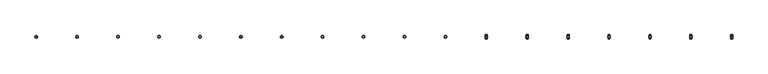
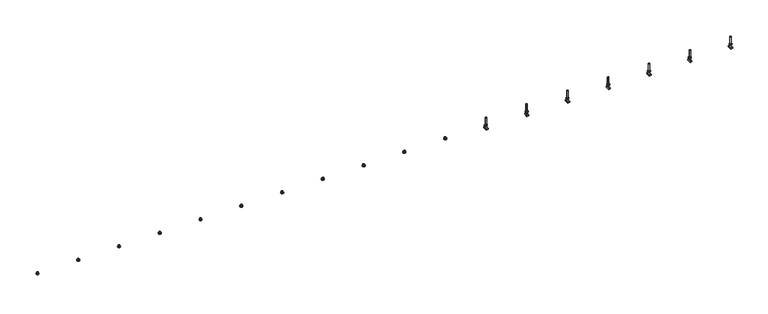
"""IFC4 building model written with IfcOpenShell, lengths in millimetres: fastener geometry, JTA-K JORDAHL® AnchorChannels : JTA-K L=6000 mm."""

from ifc_helpers import new_model, si_unit, point, frame, frame_2d, origin, place, context, project, spatial, polyline, circle_curve, trimmed, segment, composite_curve, outline, extrude, source, transform, mapped, element, save
from ifc_brep_helpers import plane_surface, cylinder_surface, advanced_brep


def fastener_8cfe3b35(model_context):
    return source(origin(), model_context, "Body", "SolidModel", [
        extrude(outline(polyline([(5617.1052632, -9.2376043), (5609.1052632, -4.6188022), (5609.1052632, 4.6188022), (5617.1052632, 9.2376043), (5625.1052632, 4.6188022), (5625.1052632, -4.6188022), (5617.1052632, -9.2376043)]), holes=[composite_curve([segment(trimmed(circle_curve(frame_2d((5617.1052632, 0.0)), 5.0), [point((5612.1052632, 0.0))], [point((5622.1052632, 0.0))], True, "CARTESIAN"), True, "CONTINUOUS"), segment(trimmed(circle_curve(frame_2d((5617.1052632, 0.0)), 5.0), [point((5622.1052632, 0.0))], [point((5612.1052632, 0.0))], True, "CARTESIAN"), True, "CONTINUOUS")], self_intersect=False)]), frame((0.0, 0.0, 17.0), z_axis=(0.0, 0.0, 1.0), x_axis=(1.0, 0.0, 0.0)), (0.0, 0.0, 1.0), 8.4),
        extrude(outline(composite_curve([segment(trimmed(circle_curve(frame_2d((5617.1052632, 0.0)), 10.0), [point((5607.1052632, 0.0))], [point((5627.1052632, 0.0))], False, "CARTESIAN"), True, "CONTINUOUS"), segment(trimmed(circle_curve(frame_2d((5617.1052632, 0.0)), 10.0), [point((5627.1052632, 0.0))], [point((5607.1052632, 0.0))], False, "CARTESIAN"), True, "CONTINUOUS")], self_intersect=False), holes=[composite_curve([segment(trimmed(circle_curve(frame_2d((5617.1052632, 0.0)), 5.25), [point((5611.8552632, 0.0))], [point((5622.3552632, 0.0))], True, "CARTESIAN"), True, "CONTINUOUS"), segment(trimmed(circle_curve(frame_2d((5617.1052632, 0.0)), 5.25), [point((5622.3552632, 0.0))], [point((5611.8552632, 0.0))], True, "CARTESIAN"), True, "CONTINUOUS")], self_intersect=False)]), frame((0.0, 0.0, 15.0), z_axis=(0.0, 0.0, 1.0), x_axis=(1.0, 0.0, 0.0)), (0.0, 0.0, 1.0), 2.0),
        extrude(outline(polyline([(5309.2105263, -9.2376043), (5301.2105263, -4.6188022), (5301.2105263, 4.6188022), (5309.2105263, 9.2376043), (5317.2105263, 4.6188022), (5317.2105263, -4.6188022), (5309.2105263, -9.2376043)]), holes=[composite_curve([segment(trimmed(circle_curve(frame_2d((5309.2105263, 0.0)), 5.0), [point((5304.2105263, 0.0))], [point((5314.2105263, 0.0))], True, "CARTESIAN"), True, "CONTINUOUS"), segment(trimmed(circle_curve(frame_2d((5309.2105263, 0.0)), 5.0), [point((5314.2105263, 0.0))], [point((5304.2105263, 0.0))], True, "CARTESIAN"), True, "CONTINUOUS")], self_intersect=False)]), frame((0.0, 0.0, 17.0), z_axis=(0.0, 0.0, 1.0), x_axis=(1.0, 0.0, 0.0)), (0.0, 0.0, 1.0), 8.4),
        extrude(outline(composite_curve([segment(trimmed(circle_curve(frame_2d((5309.2105263, 0.0)), 10.0), [point((5299.2105263, 0.0))], [point((5319.2105263, 0.0))], False, "CARTESIAN"), True, "CONTINUOUS"), segment(trimmed(circle_curve(frame_2d((5309.2105263, 0.0)), 10.0), [point((5319.2105263, 0.0))], [point((5299.2105263, 0.0))], False, "CARTESIAN"), True, "CONTINUOUS")], self_intersect=False), holes=[composite_curve([segment(trimmed(circle_curve(frame_2d((5309.2105263, 0.0)), 5.25), [point((5303.9605263, 0.0))], [point((5314.4605263, 0.0))], True, "CARTESIAN"), True, "CONTINUOUS"), segment(trimmed(circle_curve(frame_2d((5309.2105263, 0.0)), 5.25), [point((5314.4605263, 0.0))], [point((5303.9605263, 0.0))], True, "CARTESIAN"), True, "CONTINUOUS")], self_intersect=False)]), frame((0.0, 0.0, 15.0), z_axis=(0.0, 0.0, 1.0), x_axis=(1.0, 0.0, 0.0)), (0.0, 0.0, 1.0), 2.0),
        extrude(outline(polyline([(5001.3157895, -9.2376043), (4993.3157895, -4.6188022), (4993.3157895, 4.6188022), (5001.3157895, 9.2376043), (5009.3157895, 4.6188022), (5009.3157895, -4.6188022), (5001.3157895, -9.2376043)]), holes=[composite_curve([segment(trimmed(circle_curve(frame_2d((5001.3157895, 0.0)), 5.0), [point((4996.3157895, 0.0))], [point((5006.3157895, 0.0))], True, "CARTESIAN"), True, "CONTINUOUS"), segment(trimmed(circle_curve(frame_2d((5001.3157895, 0.0)), 5.0), [point((5006.3157895, 0.0))], [point((4996.3157895, 0.0))], True, "CARTESIAN"), True, "CONTINUOUS")], self_intersect=False)]), frame((0.0, 0.0, 17.0), z_axis=(0.0, 0.0, 1.0), x_axis=(1.0, 0.0, 0.0)), (0.0, 0.0, 1.0), 8.4),
        extrude(outline(composite_curve([segment(trimmed(circle_curve(frame_2d((5001.3157895, 0.0)), 10.0), [point((4991.3157895, 0.0))], [point((5011.3157895, 0.0))], False, "CARTESIAN"), True, "CONTINUOUS"), segment(trimmed(circle_curve(frame_2d((5001.3157895, 0.0)), 10.0), [point((5011.3157895, 0.0))], [point((4991.3157895, 0.0))], False, "CARTESIAN"), True, "CONTINUOUS")], self_intersect=False), holes=[composite_curve([segment(trimmed(circle_curve(frame_2d((5001.3157895, 0.0)), 5.25), [point((4996.0657895, 0.0))], [point((5006.5657895, 0.0))], True, "CARTESIAN"), True, "CONTINUOUS"), segment(trimmed(circle_curve(frame_2d((5001.3157895, 0.0)), 5.25), [point((5006.5657895, 0.0))], [point((4996.0657895, 0.0))], True, "CARTESIAN"), True, "CONTINUOUS")], self_intersect=False)]), frame((0.0, 0.0, 15.0), z_axis=(0.0, 0.0, 1.0), x_axis=(1.0, 0.0, 0.0)), (0.0, 0.0, 1.0), 2.0),
        extrude(outline(polyline([(4693.4210526, -9.2376043), (4685.4210526, -4.6188022), (4685.4210526, 4.6188022), (4693.4210526, 9.2376043), (4701.4210526, 4.6188022), (4701.4210526, -4.6188022), (4693.4210526, -9.2376043)]), holes=[composite_curve([segment(trimmed(circle_curve(frame_2d((4693.4210526, 0.0)), 5.0), [point((4688.4210526, 0.0))], [point((4698.4210526, 0.0))], True, "CARTESIAN"), True, "CONTINUOUS"), segment(trimmed(circle_curve(frame_2d((4693.4210526, 0.0)), 5.0), [point((4698.4210526, 0.0))], [point((4688.4210526, 0.0))], True, "CARTESIAN"), True, "CONTINUOUS")], self_intersect=False)]), frame((0.0, 0.0, 17.0), z_axis=(0.0, 0.0, 1.0), x_axis=(1.0, 0.0, 0.0)), (0.0, 0.0, 1.0), 8.4),
        extrude(outline(composite_curve([segment(trimmed(circle_curve(frame_2d((4693.4210526, 0.0)), 10.0), [point((4683.4210526, 0.0))], [point((4703.4210526, 0.0))], False, "CARTESIAN"), True, "CONTINUOUS"), segment(trimmed(circle_curve(frame_2d((4693.4210526, 0.0)), 10.0), [point((4703.4210526, 0.0))], [point((4683.4210526, 0.0))], False, "CARTESIAN"), True, "CONTINUOUS")], self_intersect=False), holes=[composite_curve([segment(trimmed(circle_curve(frame_2d((4693.4210526, 0.0)), 5.25), [point((4688.1710526, 0.0))], [point((4698.6710526, 0.0))], True, "CARTESIAN"), True, "CONTINUOUS"), segment(trimmed(circle_curve(frame_2d((4693.4210526, 0.0)), 5.25), [point((4698.6710526, 0.0))], [point((4688.1710526, 0.0))], True, "CARTESIAN"), True, "CONTINUOUS")], self_intersect=False)]), frame((0.0, 0.0, 15.0), z_axis=(0.0, 0.0, 1.0), x_axis=(1.0, 0.0, 0.0)), (0.0, 0.0, 1.0), 2.0),
        extrude(outline(polyline([(4385.5263158, -9.2376043), (4377.5263158, -4.6188022), (4377.5263158, 4.6188022), (4385.5263158, 9.2376043), (4393.5263158, 4.6188022), (4393.5263158, -4.6188022), (4385.5263158, -9.2376043)]), holes=[composite_curve([segment(trimmed(circle_curve(frame_2d((4385.5263158, 0.0)), 5.0), [point((4380.5263158, 0.0))], [point((4390.5263158, 0.0))], True, "CARTESIAN"), True, "CONTINUOUS"), segment(trimmed(circle_curve(frame_2d((4385.5263158, 0.0)), 5.0), [point((4390.5263158, 0.0))], [point((4380.5263158, 0.0))], True, "CARTESIAN"), True, "CONTINUOUS")], self_intersect=False)]), frame((0.0, 0.0, 17.0), z_axis=(0.0, 0.0, 1.0), x_axis=(1.0, 0.0, 0.0)), (0.0, 0.0, 1.0), 8.4),
        extrude(outline(composite_curve([segment(trimmed(circle_curve(frame_2d((4385.5263158, 0.0)), 10.0), [point((4375.5263158, 0.0))], [point((4395.5263158, 0.0))], False, "CARTESIAN"), True, "CONTINUOUS"), segment(trimmed(circle_curve(frame_2d((4385.5263158, 0.0)), 10.0), [point((4395.5263158, 0.0))], [point((4375.5263158, 0.0))], False, "CARTESIAN"), True, "CONTINUOUS")], self_intersect=False), holes=[composite_curve([segment(trimmed(circle_curve(frame_2d((4385.5263158, 0.0)), 5.25), [point((4380.2763158, 0.0))], [point((4390.7763158, 0.0))], True, "CARTESIAN"), True, "CONTINUOUS"), segment(trimmed(circle_curve(frame_2d((4385.5263158, 0.0)), 5.25), [point((4390.7763158, 0.0))], [point((4380.2763158, 0.0))], True, "CARTESIAN"), True, "CONTINUOUS")], self_intersect=False)]), frame((0.0, 0.0, 15.0), z_axis=(0.0, 0.0, 1.0), x_axis=(1.0, 0.0, 0.0)), (0.0, 0.0, 1.0), 2.0),
        extrude(outline(polyline([(4077.6315789, -9.2376043), (4069.6315789, -4.6188022), (4069.6315789, 4.6188022), (4077.6315789, 9.2376043), (4085.6315789, 4.6188022), (4085.6315789, -4.6188022), (4077.6315789, -9.2376043)]), holes=[composite_curve([segment(trimmed(circle_curve(frame_2d((4077.6315789, 0.0)), 5.0), [point((4072.6315789, 0.0))], [point((4082.6315789, 0.0))], True, "CARTESIAN"), True, "CONTINUOUS"), segment(trimmed(circle_curve(frame_2d((4077.6315789, 0.0)), 5.0), [point((4082.6315789, 0.0))], [point((4072.6315789, 0.0))], True, "CARTESIAN"), True, "CONTINUOUS")], self_intersect=False)]), frame((0.0, 0.0, 17.0), z_axis=(0.0, 0.0, 1.0), x_axis=(1.0, 0.0, 0.0)), (0.0, 0.0, 1.0), 8.4),
        extrude(outline(composite_curve([segment(trimmed(circle_curve(frame_2d((4077.6315789, 0.0)), 10.0), [point((4067.6315789, 0.0))], [point((4087.6315789, 0.0))], False, "CARTESIAN"), True, "CONTINUOUS"), segment(trimmed(circle_curve(frame_2d((4077.6315789, 0.0)), 10.0), [point((4087.6315789, 0.0))], [point((4067.6315789, 0.0))], False, "CARTESIAN"), True, "CONTINUOUS")], self_intersect=False), holes=[composite_curve([segment(trimmed(circle_curve(frame_2d((4077.6315789, 0.0)), 5.25), [point((4072.3815789, 0.0))], [point((4082.8815789, 0.0))], True, "CARTESIAN"), True, "CONTINUOUS"), segment(trimmed(circle_curve(frame_2d((4077.6315789, 0.0)), 5.25), [point((4082.8815789, 0.0))], [point((4072.3815789, 0.0))], True, "CARTESIAN"), True, "CONTINUOUS")], self_intersect=False)]), frame((0.0, 0.0, 15.0), z_axis=(0.0, 0.0, 1.0), x_axis=(1.0, 0.0, 0.0)), (0.0, 0.0, 1.0), 2.0),
        extrude(outline(polyline([(3769.7368421, -9.2376043), (3761.7368421, -4.6188022), (3761.7368421, 4.6188022), (3769.7368421, 9.2376043), (3777.7368421, 4.6188022), (3777.7368421, -4.6188022), (3769.7368421, -9.2376043)]), holes=[composite_curve([segment(trimmed(circle_curve(frame_2d((3769.7368421, 0.0)), 5.0), [point((3764.7368421, 0.0))], [point((3774.7368421, 0.0))], True, "CARTESIAN"), True, "CONTINUOUS"), segment(trimmed(circle_curve(frame_2d((3769.7368421, 0.0)), 5.0), [point((3774.7368421, 0.0))], [point((3764.7368421, 0.0))], True, "CARTESIAN"), True, "CONTINUOUS")], self_intersect=False)]), frame((0.0, 0.0, 17.0), z_axis=(0.0, 0.0, 1.0), x_axis=(1.0, 0.0, 0.0)), (0.0, 0.0, 1.0), 8.4),
        extrude(outline(composite_curve([segment(trimmed(circle_curve(frame_2d((3769.7368421, 0.0)), 10.0), [point((3759.7368421, 0.0))], [point((3779.7368421, 0.0))], False, "CARTESIAN"), True, "CONTINUOUS"), segment(trimmed(circle_curve(frame_2d((3769.7368421, 0.0)), 10.0), [point((3779.7368421, 0.0))], [point((3759.7368421, 0.0))], False, "CARTESIAN"), True, "CONTINUOUS")], self_intersect=False), holes=[composite_curve([segment(trimmed(circle_curve(frame_2d((3769.7368421, 0.0)), 5.25), [point((3764.4868421, 0.0))], [point((3774.9868421, 0.0))], True, "CARTESIAN"), True, "CONTINUOUS"), segment(trimmed(circle_curve(frame_2d((3769.7368421, 0.0)), 5.25), [point((3774.9868421, 0.0))], [point((3764.4868421, 0.0))], True, "CARTESIAN"), True, "CONTINUOUS")], self_intersect=False)]), frame((0.0, 0.0, 15.0), z_axis=(0.0, 0.0, 1.0), x_axis=(1.0, 0.0, 0.0)), (0.0, 0.0, 1.0), 2.0),
        extrude(outline(polyline([(3461.8421053, -9.2376043), (3453.8421053, -4.6188022), (3453.8421053, 4.6188022), (3461.8421053, 9.2376043), (3469.8421053, 4.6188022), (3469.8421053, -4.6188022), (3461.8421053, -9.2376043)]), holes=[composite_curve([segment(trimmed(circle_curve(frame_2d((3461.8421053, 0.0)), 5.0), [point((3456.8421053, 0.0))], [point((3466.8421053, 0.0))], True, "CARTESIAN"), True, "CONTINUOUS"), segment(trimmed(circle_curve(frame_2d((3461.8421053, 0.0)), 5.0), [point((3466.8421053, 0.0))], [point((3456.8421053, 0.0))], True, "CARTESIAN"), True, "CONTINUOUS")], self_intersect=False)]), frame((0.0, 0.0, 17.0), z_axis=(0.0, 0.0, 1.0), x_axis=(1.0, 0.0, 0.0)), (0.0, 0.0, 1.0), 8.4),
        extrude(outline(composite_curve([segment(trimmed(circle_curve(frame_2d((3461.8421053, 0.0)), 10.0), [point((3451.8421053, 0.0))], [point((3471.8421053, 0.0))], False, "CARTESIAN"), True, "CONTINUOUS"), segment(trimmed(circle_curve(frame_2d((3461.8421053, 0.0)), 10.0), [point((3471.8421053, 0.0))], [point((3451.8421053, 0.0))], False, "CARTESIAN"), True, "CONTINUOUS")], self_intersect=False), holes=[composite_curve([segment(trimmed(circle_curve(frame_2d((3461.8421053, 0.0)), 5.25), [point((3456.5921053, 0.0))], [point((3467.0921053, 0.0))], True, "CARTESIAN"), True, "CONTINUOUS"), segment(trimmed(circle_curve(frame_2d((3461.8421053, 0.0)), 5.25), [point((3467.0921053, 0.0))], [point((3456.5921053, 0.0))], True, "CARTESIAN"), True, "CONTINUOUS")], self_intersect=False)]), frame((0.0, 0.0, 15.0), z_axis=(0.0, 0.0, 1.0), x_axis=(1.0, 0.0, 0.0)), (0.0, 0.0, 1.0), 2.0),
        extrude(outline(polyline([(3153.9473684, -9.2376043), (3145.9473684, -4.6188022), (3145.9473684, 4.6188022), (3153.9473684, 9.2376043), (3161.9473684, 4.6188022), (3161.9473684, -4.6188022), (3153.9473684, -9.2376043)]), holes=[composite_curve([segment(trimmed(circle_curve(frame_2d((3153.9473684, 0.0)), 5.0), [point((3148.9473684, 0.0))], [point((3158.9473684, 0.0))], True, "CARTESIAN"), True, "CONTINUOUS"), segment(trimmed(circle_curve(frame_2d((3153.9473684, 0.0)), 5.0), [point((3158.9473684, 0.0))], [point((3148.9473684, 0.0))], True, "CARTESIAN"), True, "CONTINUOUS")], self_intersect=False)]), frame((0.0, 0.0, 17.0), z_axis=(0.0, 0.0, 1.0), x_axis=(1.0, 0.0, 0.0)), (0.0, 0.0, 1.0), 8.4),
        extrude(outline(composite_curve([segment(trimmed(circle_curve(frame_2d((3153.9473684, 0.0)), 10.0), [point((3143.9473684, 0.0))], [point((3163.9473684, 0.0))], False, "CARTESIAN"), True, "CONTINUOUS"), segment(trimmed(circle_curve(frame_2d((3153.9473684, 0.0)), 10.0), [point((3163.9473684, 0.0))], [point((3143.9473684, 0.0))], False, "CARTESIAN"), True, "CONTINUOUS")], self_intersect=False), holes=[composite_curve([segment(trimmed(circle_curve(frame_2d((3153.9473684, 0.0)), 5.25), [point((3148.6973684, 0.0))], [point((3159.1973684, 0.0))], True, "CARTESIAN"), True, "CONTINUOUS"), segment(trimmed(circle_curve(frame_2d((3153.9473684, 0.0)), 5.25), [point((3159.1973684, 0.0))], [point((3148.6973684, 0.0))], True, "CARTESIAN"), True, "CONTINUOUS")], self_intersect=False)]), frame((0.0, 0.0, 15.0), z_axis=(0.0, 0.0, 1.0), x_axis=(1.0, 0.0, 0.0)), (0.0, 0.0, 1.0), 2.0),
        extrude(outline(polyline([(2846.0526316, -9.2376043), (2838.0526316, -4.6188022), (2838.0526316, 4.6188022), (2846.0526316, 9.2376043), (2854.0526316, 4.6188022), (2854.0526316, -4.6188022), (2846.0526316, -9.2376043)]), holes=[composite_curve([segment(trimmed(circle_curve(frame_2d((2846.0526316, 0.0)), 5.0), [point((2841.0526316, 0.0))], [point((2851.0526316, 0.0))], True, "CARTESIAN"), True, "CONTINUOUS"), segment(trimmed(circle_curve(frame_2d((2846.0526316, 0.0)), 5.0), [point((2851.0526316, 0.0))], [point((2841.0526316, 0.0))], True, "CARTESIAN"), True, "CONTINUOUS")], self_intersect=False)]), frame((0.0, 0.0, 17.0), z_axis=(0.0, 0.0, 1.0), x_axis=(1.0, 0.0, 0.0)), (0.0, 0.0, 1.0), 8.4),
        extrude(outline(composite_curve([segment(trimmed(circle_curve(frame_2d((2846.0526316, 0.0)), 10.0), [point((2836.0526316, 0.0))], [point((2856.0526316, 0.0))], False, "CARTESIAN"), True, "CONTINUOUS"), segment(trimmed(circle_curve(frame_2d((2846.0526316, 0.0)), 10.0), [point((2856.0526316, 0.0))], [point((2836.0526316, 0.0))], False, "CARTESIAN"), True, "CONTINUOUS")], self_intersect=False), holes=[composite_curve([segment(trimmed(circle_curve(frame_2d((2846.0526316, 0.0)), 5.25), [point((2840.8026316, 0.0))], [point((2851.3026316, 0.0))], True, "CARTESIAN"), True, "CONTINUOUS"), segment(trimmed(circle_curve(frame_2d((2846.0526316, 0.0)), 5.25), [point((2851.3026316, 0.0))], [point((2840.8026316, 0.0))], True, "CARTESIAN"), True, "CONTINUOUS")], self_intersect=False)]), frame((0.0, 0.0, 15.0), z_axis=(0.0, 0.0, 1.0), x_axis=(1.0, 0.0, 0.0)), (0.0, 0.0, 1.0), 2.0),
        extrude(outline(polyline([(2538.1578947, -9.2376043), (2530.1578947, -4.6188022), (2530.1578947, 4.6188022), (2538.1578947, 9.2376043), (2546.1578947, 4.6188022), (2546.1578947, -4.6188022), (2538.1578947, -9.2376043)]), holes=[composite_curve([segment(trimmed(circle_curve(frame_2d((2538.1578947, 0.0)), 5.0), [point((2533.1578947, 0.0))], [point((2543.1578947, 0.0))], True, "CARTESIAN"), True, "CONTINUOUS"), segment(trimmed(circle_curve(frame_2d((2538.1578947, 0.0)), 5.0), [point((2543.1578947, 0.0))], [point((2533.1578947, 0.0))], True, "CARTESIAN"), True, "CONTINUOUS")], self_intersect=False)]), frame((0.0, 0.0, 17.0), z_axis=(0.0, 0.0, 1.0), x_axis=(1.0, 0.0, 0.0)), (0.0, 0.0, 1.0), 8.4),
        extrude(outline(composite_curve([segment(trimmed(circle_curve(frame_2d((2538.1578947, 0.0)), 10.0), [point((2528.1578947, 0.0))], [point((2548.1578947, 0.0))], False, "CARTESIAN"), True, "CONTINUOUS"), segment(trimmed(circle_curve(frame_2d((2538.1578947, 0.0)), 10.0), [point((2548.1578947, 0.0))], [point((2528.1578947, 0.0))], False, "CARTESIAN"), True, "CONTINUOUS")], self_intersect=False), holes=[composite_curve([segment(trimmed(circle_curve(frame_2d((2538.1578947, 0.0)), 5.25), [point((2532.9078947, 0.0))], [point((2543.4078947, 0.0))], True, "CARTESIAN"), True, "CONTINUOUS"), segment(trimmed(circle_curve(frame_2d((2538.1578947, 0.0)), 5.25), [point((2543.4078947, 0.0))], [point((2532.9078947, 0.0))], True, "CARTESIAN"), True, "CONTINUOUS")], self_intersect=False)]), frame((0.0, 0.0, 15.0), z_axis=(0.0, 0.0, 1.0), x_axis=(1.0, 0.0, 0.0)), (0.0, 0.0, 1.0), 2.0),
        extrude(outline(polyline([(2230.2631579, -9.2376043), (2222.2631579, -4.6188022), (2222.2631579, 4.6188022), (2230.2631579, 9.2376043), (2238.2631579, 4.6188022), (2238.2631579, -4.6188022), (2230.2631579, -9.2376043)]), holes=[composite_curve([segment(trimmed(circle_curve(frame_2d((2230.2631579, 0.0)), 5.0), [point((2225.2631579, 0.0))], [point((2235.2631579, 0.0))], True, "CARTESIAN"), True, "CONTINUOUS"), segment(trimmed(circle_curve(frame_2d((2230.2631579, 0.0)), 5.0), [point((2235.2631579, 0.0))], [point((2225.2631579, 0.0))], True, "CARTESIAN"), True, "CONTINUOUS")], self_intersect=False)]), frame((0.0, 0.0, 17.0), z_axis=(0.0, 0.0, 1.0), x_axis=(1.0, 0.0, 0.0)), (0.0, 0.0, 1.0), 8.4),
        extrude(outline(composite_curve([segment(trimmed(circle_curve(frame_2d((2230.2631579, 0.0)), 10.0), [point((2220.2631579, 0.0))], [point((2240.2631579, 0.0))], False, "CARTESIAN"), True, "CONTINUOUS"), segment(trimmed(circle_curve(frame_2d((2230.2631579, 0.0)), 10.0), [point((2240.2631579, 0.0))], [point((2220.2631579, 0.0))], False, "CARTESIAN"), True, "CONTINUOUS")], self_intersect=False), holes=[composite_curve([segment(trimmed(circle_curve(frame_2d((2230.2631579, 0.0)), 5.25), [point((2225.0131579, 0.0))], [point((2235.5131579, 0.0))], True, "CARTESIAN"), True, "CONTINUOUS"), segment(trimmed(circle_curve(frame_2d((2230.2631579, 0.0)), 5.25), [point((2235.5131579, 0.0))], [point((2225.0131579, 0.0))], True, "CARTESIAN"), True, "CONTINUOUS")], self_intersect=False)]), frame((0.0, 0.0, 15.0), z_axis=(0.0, 0.0, 1.0), x_axis=(1.0, 0.0, 0.0)), (0.0, 0.0, 1.0), 2.0),
        extrude(outline(polyline([(1922.3684211, -9.2376043), (1914.3684211, -4.6188022), (1914.3684211, 4.6188022), (1922.3684211, 9.2376043), (1930.3684211, 4.6188022), (1930.3684211, -4.6188022), (1922.3684211, -9.2376043)]), holes=[composite_curve([segment(trimmed(circle_curve(frame_2d((1922.3684211, 0.0)), 5.0), [point((1917.3684211, 0.0))], [point((1927.3684211, 0.0))], True, "CARTESIAN"), True, "CONTINUOUS"), segment(trimmed(circle_curve(frame_2d((1922.3684211, 0.0)), 5.0), [point((1927.3684211, 0.0))], [point((1917.3684211, 0.0))], True, "CARTESIAN"), True, "CONTINUOUS")], self_intersect=False)]), frame((0.0, 0.0, 17.0), z_axis=(0.0, 0.0, 1.0), x_axis=(1.0, 0.0, 0.0)), (0.0, 0.0, 1.0), 8.4),
        extrude(outline(composite_curve([segment(trimmed(circle_curve(frame_2d((1922.3684211, 0.0)), 10.0), [point((1912.3684211, 0.0))], [point((1932.3684211, 0.0))], False, "CARTESIAN"), True, "CONTINUOUS"), segment(trimmed(circle_curve(frame_2d((1922.3684211, 0.0)), 10.0), [point((1932.3684211, 0.0))], [point((1912.3684211, 0.0))], False, "CARTESIAN"), True, "CONTINUOUS")], self_intersect=False), holes=[composite_curve([segment(trimmed(circle_curve(frame_2d((1922.3684211, 0.0)), 5.25), [point((1917.1184211, 0.0))], [point((1927.6184211, 0.0))], True, "CARTESIAN"), True, "CONTINUOUS"), segment(trimmed(circle_curve(frame_2d((1922.3684211, 0.0)), 5.25), [point((1927.6184211, 0.0))], [point((1917.1184211, 0.0))], True, "CARTESIAN"), True, "CONTINUOUS")], self_intersect=False)]), frame((0.0, 0.0, 15.0), z_axis=(0.0, 0.0, 1.0), x_axis=(1.0, 0.0, 0.0)), (0.0, 0.0, 1.0), 2.0),
        extrude(outline(polyline([(1614.4736842, -9.2376043), (1606.4736842, -4.6188022), (1606.4736842, 4.6188022), (1614.4736842, 9.2376043), (1622.4736842, 4.6188022), (1622.4736842, -4.6188022), (1614.4736842, -9.2376043)]), holes=[composite_curve([segment(trimmed(circle_curve(frame_2d((1614.4736842, 0.0)), 5.0), [point((1609.4736842, 0.0))], [point((1619.4736842, 0.0))], True, "CARTESIAN"), True, "CONTINUOUS"), segment(trimmed(circle_curve(frame_2d((1614.4736842, 0.0)), 5.0), [point((1619.4736842, 0.0))], [point((1609.4736842, 0.0))], True, "CARTESIAN"), True, "CONTINUOUS")], self_intersect=False)]), frame((0.0, 0.0, 17.0), z_axis=(0.0, 0.0, 1.0), x_axis=(1.0, 0.0, 0.0)), (0.0, 0.0, 1.0), 8.4),
        extrude(outline(composite_curve([segment(trimmed(circle_curve(frame_2d((1614.4736842, 0.0)), 10.0), [point((1604.4736842, 0.0))], [point((1624.4736842, 0.0))], False, "CARTESIAN"), True, "CONTINUOUS"), segment(trimmed(circle_curve(frame_2d((1614.4736842, 0.0)), 10.0), [point((1624.4736842, 0.0))], [point((1604.4736842, 0.0))], False, "CARTESIAN"), True, "CONTINUOUS")], self_intersect=False), holes=[composite_curve([segment(trimmed(circle_curve(frame_2d((1614.4736842, 0.0)), 5.25), [point((1609.2236842, 0.0))], [point((1619.7236842, 0.0))], True, "CARTESIAN"), True, "CONTINUOUS"), segment(trimmed(circle_curve(frame_2d((1614.4736842, 0.0)), 5.25), [point((1619.7236842, 0.0))], [point((1609.2236842, 0.0))], True, "CARTESIAN"), True, "CONTINUOUS")], self_intersect=False)]), frame((0.0, 0.0, 15.0), z_axis=(0.0, 0.0, 1.0), x_axis=(1.0, 0.0, 0.0)), (0.0, 0.0, 1.0), 2.0),
        extrude(outline(polyline([(1306.5789474, -9.2376043), (1298.5789474, -4.6188022), (1298.5789474, 4.6188022), (1306.5789474, 9.2376043), (1314.5789474, 4.6188022), (1314.5789474, -4.6188022), (1306.5789474, -9.2376043)]), holes=[composite_curve([segment(trimmed(circle_curve(frame_2d((1306.5789474, 0.0)), 5.0), [point((1301.5789474, 0.0))], [point((1311.5789474, 0.0))], True, "CARTESIAN"), True, "CONTINUOUS"), segment(trimmed(circle_curve(frame_2d((1306.5789474, 0.0)), 5.0), [point((1311.5789474, 0.0))], [point((1301.5789474, 0.0))], True, "CARTESIAN"), True, "CONTINUOUS")], self_intersect=False)]), frame((0.0, 0.0, 17.0), z_axis=(0.0, 0.0, 1.0), x_axis=(1.0, 0.0, 0.0)), (0.0, 0.0, 1.0), 8.4),
        extrude(outline(composite_curve([segment(trimmed(circle_curve(frame_2d((1306.5789474, 0.0)), 10.0), [point((1296.5789474, 0.0))], [point((1316.5789474, 0.0))], False, "CARTESIAN"), True, "CONTINUOUS"), segment(trimmed(circle_curve(frame_2d((1306.5789474, 0.0)), 10.0), [point((1316.5789474, 0.0))], [point((1296.5789474, 0.0))], False, "CARTESIAN"), True, "CONTINUOUS")], self_intersect=False), holes=[composite_curve([segment(trimmed(circle_curve(frame_2d((1306.5789474, 0.0)), 5.25), [point((1301.3289474, 0.0))], [point((1311.8289474, 0.0))], True, "CARTESIAN"), True, "CONTINUOUS"), segment(trimmed(circle_curve(frame_2d((1306.5789474, 0.0)), 5.25), [point((1311.8289474, 0.0))], [point((1301.3289474, 0.0))], True, "CARTESIAN"), True, "CONTINUOUS")], self_intersect=False)]), frame((0.0, 0.0, 15.0), z_axis=(0.0, 0.0, 1.0), x_axis=(1.0, 0.0, 0.0)), (0.0, 0.0, 1.0), 2.0),
        extrude(outline(polyline([(998.6842105, -9.2376043), (990.6842105, -4.6188022), (990.6842105, 4.6188022), (998.6842105, 9.2376043), (1006.6842105, 4.6188022), (1006.6842105, -4.6188022), (998.6842105, -9.2376043)]), holes=[composite_curve([segment(trimmed(circle_curve(frame_2d((998.6842105, 0.0)), 5.0), [point((993.6842105, 0.0))], [point((1003.6842105, 0.0))], True, "CARTESIAN"), True, "CONTINUOUS"), segment(trimmed(circle_curve(frame_2d((998.6842105, 0.0)), 5.0), [point((1003.6842105, 0.0))], [point((993.6842105, 0.0))], True, "CARTESIAN"), True, "CONTINUOUS")], self_intersect=False)]), frame((0.0, 0.0, 17.0), z_axis=(0.0, 0.0, 1.0), x_axis=(1.0, 0.0, 0.0)), (0.0, 0.0, 1.0), 8.4),
        extrude(outline(composite_curve([segment(trimmed(circle_curve(frame_2d((998.6842105, 0.0)), 10.0), [point((988.6842105, 0.0))], [point((1008.6842105, 0.0))], False, "CARTESIAN"), True, "CONTINUOUS"), segment(trimmed(circle_curve(frame_2d((998.6842105, 0.0)), 10.0), [point((1008.6842105, 0.0))], [point((988.6842105, 0.0))], False, "CARTESIAN"), True, "CONTINUOUS")], self_intersect=False), holes=[composite_curve([segment(trimmed(circle_curve(frame_2d((998.6842105, 0.0)), 5.25), [point((993.4342105, 0.0))], [point((1003.9342105, 0.0))], True, "CARTESIAN"), True, "CONTINUOUS"), segment(trimmed(circle_curve(frame_2d((998.6842105, 0.0)), 5.25), [point((1003.9342105, 0.0))], [point((993.4342105, 0.0))], True, "CARTESIAN"), True, "CONTINUOUS")], self_intersect=False)]), frame((0.0, 0.0, 15.0), z_axis=(0.0, 0.0, 1.0), x_axis=(1.0, 0.0, 0.0)), (0.0, 0.0, 1.0), 2.0),
        extrude(outline(polyline([(690.7894737, -9.2376043), (682.7894737, -4.6188022), (682.7894737, 4.6188022), (690.7894737, 9.2376043), (698.7894737, 4.6188022), (698.7894737, -4.6188022), (690.7894737, -9.2376043)]), holes=[composite_curve([segment(trimmed(circle_curve(frame_2d((690.7894737, 0.0)), 5.0), [point((685.7894737, 0.0))], [point((695.7894737, 0.0))], True, "CARTESIAN"), True, "CONTINUOUS"), segment(trimmed(circle_curve(frame_2d((690.7894737, 0.0)), 5.0), [point((695.7894737, 0.0))], [point((685.7894737, 0.0))], True, "CARTESIAN"), True, "CONTINUOUS")], self_intersect=False)]), frame((0.0, 0.0, 17.0), z_axis=(0.0, 0.0, 1.0), x_axis=(1.0, 0.0, 0.0)), (0.0, 0.0, 1.0), 8.4),
        extrude(outline(composite_curve([segment(trimmed(circle_curve(frame_2d((690.7894737, 0.0)), 10.0), [point((680.7894737, 0.0))], [point((700.7894737, 0.0))], False, "CARTESIAN"), True, "CONTINUOUS"), segment(trimmed(circle_curve(frame_2d((690.7894737, 0.0)), 10.0), [point((700.7894737, 0.0))], [point((680.7894737, 0.0))], False, "CARTESIAN"), True, "CONTINUOUS")], self_intersect=False), holes=[composite_curve([segment(trimmed(circle_curve(frame_2d((690.7894737, 0.0)), 5.25), [point((685.5394737, 0.0))], [point((696.0394737, 0.0))], True, "CARTESIAN"), True, "CONTINUOUS"), segment(trimmed(circle_curve(frame_2d((690.7894737, 0.0)), 5.25), [point((696.0394737, 0.0))], [point((685.5394737, 0.0))], True, "CARTESIAN"), True, "CONTINUOUS")], self_intersect=False)]), frame((0.0, 0.0, 15.0), z_axis=(0.0, 0.0, 1.0), x_axis=(1.0, 0.0, 0.0)), (0.0, 0.0, 1.0), 2.0),
        extrude(outline(polyline([(382.8947368, -9.2376043), (374.8947368, -4.6188022), (374.8947368, 4.6188022), (382.8947368, 9.2376043), (390.8947368, 4.6188022), (390.8947368, -4.6188022), (382.8947368, -9.2376043)]), holes=[composite_curve([segment(trimmed(circle_curve(frame_2d((382.8947368, 0.0)), 5.0), [point((377.8947368, 0.0))], [point((387.8947368, 0.0))], True, "CARTESIAN"), True, "CONTINUOUS"), segment(trimmed(circle_curve(frame_2d((382.8947368, 0.0)), 5.0), [point((387.8947368, 0.0))], [point((377.8947368, 0.0))], True, "CARTESIAN"), True, "CONTINUOUS")], self_intersect=False)]), frame((0.0, 0.0, 17.0), z_axis=(0.0, 0.0, 1.0), x_axis=(1.0, 0.0, 0.0)), (0.0, 0.0, 1.0), 8.4),
        extrude(outline(composite_curve([segment(trimmed(circle_curve(frame_2d((382.8947368, 0.0)), 10.0), [point((372.8947368, 0.0))], [point((392.8947368, 0.0))], False, "CARTESIAN"), True, "CONTINUOUS"), segment(trimmed(circle_curve(frame_2d((382.8947368, 0.0)), 10.0), [point((392.8947368, 0.0))], [point((372.8947368, 0.0))], False, "CARTESIAN"), True, "CONTINUOUS")], self_intersect=False), holes=[composite_curve([segment(trimmed(circle_curve(frame_2d((382.8947368, 0.0)), 5.25), [point((377.6447368, 0.0))], [point((388.1447368, 0.0))], True, "CARTESIAN"), True, "CONTINUOUS"), segment(trimmed(circle_curve(frame_2d((382.8947368, 0.0)), 5.25), [point((388.1447368, 0.0))], [point((377.6447368, 0.0))], True, "CARTESIAN"), True, "CONTINUOUS")], self_intersect=False)]), frame((0.0, 0.0, 15.0), z_axis=(0.0, 0.0, 1.0), x_axis=(1.0, 0.0, 0.0)), (0.0, 0.0, 1.0), 2.0),
        advanced_brep(
        [(5624.1052632, -16.0, -3.0), (5624.1052632, -16.0, -11.0), (5624.1052632, 16.0, -11.0), (5624.1052632, 16.0, -3.0), (5610.1052632, -16.0, -3.0), (5610.1052632, 16.0, -3.0), (5610.1052632, 16.0, -11.0), (5610.1052632, -16.0, -11.0), (5622.1052632, 0.0, -3.0), (5612.1052632, 0.0, -3.0), (5612.1052632, 0.0, 77.0), (5622.1052632, 0.0, 77.0)],
        [
            (0, 1),
            (1, 2),
            (2, 3),
            (3, 0),
            (4, 5),
            (5, 6),
            (6, 7),
            (7, 4),
            (3, 5),
            (4, 0),
            (8, 9, circle_curve(frame((5617.1052632, 0.0, -3.0), z_axis=(0.0, 0.0, -1.0), x_axis=(1.0, 0.0, 0.0)), 5.0)),
            (9, 8, circle_curve(frame((5617.1052632, 0.0, -3.0), z_axis=(0.0, 0.0, -1.0), x_axis=(1.0, 0.0, 0.0)), 5.0)),
            (2, 6),
            (1, 7),
            (10, 11, circle_curve(frame((5617.1052632, 0.0, 77.0), z_axis=(0.0, 0.0, 1.0), x_axis=(1.0, 0.0, 0.0)), 5.0)),
            (11, 10, circle_curve(frame((5617.1052632, 0.0, 77.0), z_axis=(0.0, 0.0, 1.0), x_axis=(1.0, 0.0, 0.0)), 5.0)),
            (11, 8),
            (9, 10),
        ],
        [
            plane_surface(frame((5624.1052632, 16.0, -3.0), z_axis=(1.0, 0.0, 0.0), x_axis=(0.0, 1.0, 0.0))),
            plane_surface(frame((5610.1052632, 16.0, -3.0), z_axis=(-1.0, 0.0, 0.0), x_axis=(0.0, -1.0, 0.0))),
            plane_surface(frame((5624.1052632, -16.0, -3.0), z_axis=(0.0, 0.0, 1.0), x_axis=(-1.0, 0.0, 0.0))),
            plane_surface(frame((5624.1052632, 16.0, -3.0), z_axis=(0.0, 1.0, 0.0), x_axis=(-1.0, 0.0, 0.0))),
            plane_surface(frame((5624.1052632, 16.0, -11.0), z_axis=(0.0, 0.0, -1.0), x_axis=(-1.0, 0.0, 0.0))),
            plane_surface(frame((5624.1052632, -16.0, -11.0), z_axis=(0.0, -1.0, 0.0), x_axis=(-1.0, 0.0, 0.0))),
            plane_surface(frame((5622.1052632, 0.0, 77.0), z_axis=(0.0, 0.0, 1.0), x_axis=(0.0, -1.0, 0.0))),
            cylinder_surface(frame((5617.1052632, 0.0, -3.0), z_axis=(0.0, 0.0, 1.0), x_axis=(1.0, 0.0, 0.0)), 5.0),
        ],
        [
            (0, [[1, 2, 3, 4]]),
            (1, [[5, 6, 7, 8]]),
            (2, [[9, -5, 10, -4], [11, 12]]),
            (3, [[13, -6, -9, -3]]),
            (4, [[14, -7, -13, -2]]),
            (5, [[-10, -8, -14, -1]]),
            (6, [[15, 16]]),
            (7, [[17, -12, 18, -16]]),
            (7, [[-18, -11, -17, -15]]),
        ],
    ),
        advanced_brep(
        [(5316.2105263, -16.0, -3.0), (5316.2105263, -16.0, -11.0), (5316.2105263, 16.0, -11.0), (5316.2105263, 16.0, -3.0), (5302.2105263, -16.0, -3.0), (5302.2105263, 16.0, -3.0), (5302.2105263, 16.0, -11.0), (5302.2105263, -16.0, -11.0), (5314.2105263, 0.0, -3.0), (5304.2105263, 0.0, -3.0), (5304.2105263, 0.0, 77.0), (5314.2105263, 0.0, 77.0)],
        [
            (0, 1),
            (1, 2),
            (2, 3),
            (3, 0),
            (4, 5),
            (5, 6),
            (6, 7),
            (7, 4),
            (3, 5),
            (4, 0),
            (8, 9, circle_curve(frame((5309.2105263, 0.0, -3.0), z_axis=(0.0, 0.0, -1.0), x_axis=(1.0, 0.0, 0.0)), 5.0)),
            (9, 8, circle_curve(frame((5309.2105263, 0.0, -3.0), z_axis=(0.0, 0.0, -1.0), x_axis=(1.0, 0.0, 0.0)), 5.0)),
            (2, 6),
            (1, 7),
            (10, 11, circle_curve(frame((5309.2105263, 0.0, 77.0), z_axis=(0.0, 0.0, 1.0), x_axis=(1.0, 0.0, 0.0)), 5.0)),
            (11, 10, circle_curve(frame((5309.2105263, 0.0, 77.0), z_axis=(0.0, 0.0, 1.0), x_axis=(1.0, 0.0, 0.0)), 5.0)),
            (11, 8),
            (9, 10),
        ],
        [
            plane_surface(frame((5316.2105263, 16.0, -3.0), z_axis=(1.0, 0.0, 0.0), x_axis=(0.0, 1.0, 0.0))),
            plane_surface(frame((5302.2105263, 16.0, -3.0), z_axis=(-1.0, 0.0, 0.0), x_axis=(0.0, -1.0, 0.0))),
            plane_surface(frame((5316.2105263, -16.0, -3.0), z_axis=(0.0, 0.0, 1.0), x_axis=(-1.0, 0.0, 0.0))),
            plane_surface(frame((5316.2105263, 16.0, -3.0), z_axis=(0.0, 1.0, 0.0), x_axis=(-1.0, 0.0, 0.0))),
            plane_surface(frame((5316.2105263, 16.0, -11.0), z_axis=(0.0, 0.0, -1.0), x_axis=(-1.0, 0.0, 0.0))),
            plane_surface(frame((5316.2105263, -16.0, -11.0), z_axis=(0.0, -1.0, 0.0), x_axis=(-1.0, 0.0, 0.0))),
            plane_surface(frame((5314.2105263, 0.0, 77.0), z_axis=(0.0, 0.0, 1.0), x_axis=(0.0, -1.0, 0.0))),
            cylinder_surface(frame((5309.2105263, 0.0, -3.0), z_axis=(0.0, 0.0, 1.0), x_axis=(1.0, 0.0, 0.0)), 5.0),
        ],
        [
            (0, [[1, 2, 3, 4]]),
            (1, [[5, 6, 7, 8]]),
            (2, [[9, -5, 10, -4], [11, 12]]),
            (3, [[13, -6, -9, -3]]),
            (4, [[14, -7, -13, -2]]),
            (5, [[-10, -8, -14, -1]]),
            (6, [[15, 16]]),
            (7, [[17, -12, 18, -16]]),
            (7, [[-18, -11, -17, -15]]),
        ],
    ),
        advanced_brep(
        [(5008.3157895, -16.0, -3.0), (5008.3157895, -16.0, -11.0), (5008.3157895, 16.0, -11.0), (5008.3157895, 16.0, -3.0), (4994.3157895, -16.0, -3.0), (4994.3157895, 16.0, -3.0), (4994.3157895, 16.0, -11.0), (4994.3157895, -16.0, -11.0), (5006.3157895, 0.0, -3.0), (4996.3157895, 0.0, -3.0), (4996.3157895, 0.0, 77.0), (5006.3157895, 0.0, 77.0)],
        [
            (0, 1),
            (1, 2),
            (2, 3),
            (3, 0),
            (4, 5),
            (5, 6),
            (6, 7),
            (7, 4),
            (3, 5),
            (4, 0),
            (8, 9, circle_curve(frame((5001.3157895, 0.0, -3.0), z_axis=(0.0, 0.0, -1.0), x_axis=(1.0, 0.0, 0.0)), 5.0)),
            (9, 8, circle_curve(frame((5001.3157895, 0.0, -3.0), z_axis=(0.0, 0.0, -1.0), x_axis=(1.0, 0.0, 0.0)), 5.0)),
            (2, 6),
            (1, 7),
            (10, 11, circle_curve(frame((5001.3157895, 0.0, 77.0), z_axis=(0.0, 0.0, 1.0), x_axis=(1.0, 0.0, 0.0)), 5.0)),
            (11, 10, circle_curve(frame((5001.3157895, 0.0, 77.0), z_axis=(0.0, 0.0, 1.0), x_axis=(1.0, 0.0, 0.0)), 5.0)),
            (11, 8),
            (9, 10),
        ],
        [
            plane_surface(frame((5008.3157895, 16.0, -3.0), z_axis=(1.0, 0.0, 0.0), x_axis=(0.0, 1.0, 0.0))),
            plane_surface(frame((4994.3157895, 16.0, -3.0), z_axis=(-1.0, 0.0, 0.0), x_axis=(0.0, -1.0, 0.0))),
            plane_surface(frame((5008.3157895, -16.0, -3.0), z_axis=(0.0, 0.0, 1.0), x_axis=(-1.0, 0.0, 0.0))),
            plane_surface(frame((5008.3157895, 16.0, -3.0), z_axis=(0.0, 1.0, 0.0), x_axis=(-1.0, 0.0, 0.0))),
            plane_surface(frame((5008.3157895, 16.0, -11.0), z_axis=(0.0, 0.0, -1.0), x_axis=(-1.0, 0.0, 0.0))),
            plane_surface(frame((5008.3157895, -16.0, -11.0), z_axis=(0.0, -1.0, 0.0), x_axis=(-1.0, 0.0, 0.0))),
            plane_surface(frame((5006.3157895, 0.0, 77.0), z_axis=(0.0, 0.0, 1.0), x_axis=(0.0, -1.0, 0.0))),
            cylinder_surface(frame((5001.3157895, 0.0, -3.0), z_axis=(0.0, 0.0, 1.0), x_axis=(1.0, 0.0, 0.0)), 5.0),
        ],
        [
            (0, [[1, 2, 3, 4]]),
            (1, [[5, 6, 7, 8]]),
            (2, [[9, -5, 10, -4], [11, 12]]),
            (3, [[13, -6, -9, -3]]),
            (4, [[14, -7, -13, -2]]),
            (5, [[-10, -8, -14, -1]]),
            (6, [[15, 16]]),
            (7, [[17, -12, 18, -16]]),
            (7, [[-18, -11, -17, -15]]),
        ],
    ),
        advanced_brep(
        [(4700.4210526, -16.0, -3.0), (4700.4210526, -16.0, -11.0), (4700.4210526, 16.0, -11.0), (4700.4210526, 16.0, -3.0), (4686.4210526, -16.0, -3.0), (4686.4210526, 16.0, -3.0), (4686.4210526, 16.0, -11.0), (4686.4210526, -16.0, -11.0), (4698.4210526, 0.0, -3.0), (4688.4210526, 0.0, -3.0), (4688.4210526, 0.0, 77.0), (4698.4210526, 0.0, 77.0)],
        [
            (0, 1),
            (1, 2),
            (2, 3),
            (3, 0),
            (4, 5),
            (5, 6),
            (6, 7),
            (7, 4),
            (3, 5),
            (4, 0),
            (8, 9, circle_curve(frame((4693.4210526, 0.0, -3.0), z_axis=(0.0, 0.0, -1.0), x_axis=(1.0, 0.0, 0.0)), 5.0)),
            (9, 8, circle_curve(frame((4693.4210526, 0.0, -3.0), z_axis=(0.0, 0.0, -1.0), x_axis=(1.0, 0.0, 0.0)), 5.0)),
            (2, 6),
            (1, 7),
            (10, 11, circle_curve(frame((4693.4210526, 0.0, 77.0), z_axis=(0.0, 0.0, 1.0), x_axis=(1.0, 0.0, 0.0)), 5.0)),
            (11, 10, circle_curve(frame((4693.4210526, 0.0, 77.0), z_axis=(0.0, 0.0, 1.0), x_axis=(1.0, 0.0, 0.0)), 5.0)),
            (11, 8),
            (9, 10),
        ],
        [
            plane_surface(frame((4700.4210526, 16.0, -3.0), z_axis=(1.0, 0.0, 0.0), x_axis=(0.0, 1.0, 0.0))),
            plane_surface(frame((4686.4210526, 16.0, -3.0), z_axis=(-1.0, 0.0, 0.0), x_axis=(0.0, -1.0, 0.0))),
            plane_surface(frame((4700.4210526, -16.0, -3.0), z_axis=(0.0, 0.0, 1.0), x_axis=(-1.0, 0.0, 0.0))),
            plane_surface(frame((4700.4210526, 16.0, -3.0), z_axis=(0.0, 1.0, 0.0), x_axis=(-1.0, 0.0, 0.0))),
            plane_surface(frame((4700.4210526, 16.0, -11.0), z_axis=(0.0, 0.0, -1.0), x_axis=(-1.0, 0.0, 0.0))),
            plane_surface(frame((4700.4210526, -16.0, -11.0), z_axis=(0.0, -1.0, 0.0), x_axis=(-1.0, 0.0, 0.0))),
            plane_surface(frame((4698.4210526, 0.0, 77.0), z_axis=(0.0, 0.0, 1.0), x_axis=(0.0, -1.0, 0.0))),
            cylinder_surface(frame((4693.4210526, 0.0, -3.0), z_axis=(0.0, 0.0, 1.0), x_axis=(1.0, 0.0, 0.0)), 5.0),
        ],
        [
            (0, [[1, 2, 3, 4]]),
            (1, [[5, 6, 7, 8]]),
            (2, [[9, -5, 10, -4], [11, 12]]),
            (3, [[13, -6, -9, -3]]),
            (4, [[14, -7, -13, -2]]),
            (5, [[-10, -8, -14, -1]]),
            (6, [[15, 16]]),
            (7, [[17, -12, 18, -16]]),
            (7, [[-18, -11, -17, -15]]),
        ],
    ),
        advanced_brep(
        [(4392.5263158, -16.0, -3.0), (4392.5263158, -16.0, -11.0), (4392.5263158, 16.0, -11.0), (4392.5263158, 16.0, -3.0), (4378.5263158, -16.0, -3.0), (4378.5263158, 16.0, -3.0), (4378.5263158, 16.0, -11.0), (4378.5263158, -16.0, -11.0), (4390.5263158, 0.0, -3.0), (4380.5263158, 0.0, -3.0), (4380.5263158, 0.0, 77.0), (4390.5263158, 0.0, 77.0)],
        [
            (0, 1),
            (1, 2),
            (2, 3),
            (3, 0),
            (4, 5),
            (5, 6),
            (6, 7),
            (7, 4),
            (3, 5),
            (4, 0),
            (8, 9, circle_curve(frame((4385.5263158, 0.0, -3.0), z_axis=(0.0, 0.0, -1.0), x_axis=(1.0, 0.0, 0.0)), 5.0)),
            (9, 8, circle_curve(frame((4385.5263158, 0.0, -3.0), z_axis=(0.0, 0.0, -1.0), x_axis=(1.0, 0.0, 0.0)), 5.0)),
            (2, 6),
            (1, 7),
            (10, 11, circle_curve(frame((4385.5263158, 0.0, 77.0), z_axis=(0.0, 0.0, 1.0), x_axis=(1.0, 0.0, 0.0)), 5.0)),
            (11, 10, circle_curve(frame((4385.5263158, 0.0, 77.0), z_axis=(0.0, 0.0, 1.0), x_axis=(1.0, 0.0, 0.0)), 5.0)),
            (11, 8),
            (9, 10),
        ],
        [
            plane_surface(frame((4392.5263158, 16.0, -3.0), z_axis=(1.0, 0.0, 0.0), x_axis=(0.0, 1.0, 0.0))),
            plane_surface(frame((4378.5263158, 16.0, -3.0), z_axis=(-1.0, 0.0, 0.0), x_axis=(0.0, -1.0, 0.0))),
            plane_surface(frame((4392.5263158, -16.0, -3.0), z_axis=(0.0, 0.0, 1.0), x_axis=(-1.0, 0.0, 0.0))),
            plane_surface(frame((4392.5263158, 16.0, -3.0), z_axis=(0.0, 1.0, 0.0), x_axis=(-1.0, 0.0, 0.0))),
            plane_surface(frame((4392.5263158, 16.0, -11.0), z_axis=(0.0, 0.0, -1.0), x_axis=(-1.0, 0.0, 0.0))),
            plane_surface(frame((4392.5263158, -16.0, -11.0), z_axis=(0.0, -1.0, 0.0), x_axis=(-1.0, 0.0, 0.0))),
            plane_surface(frame((4390.5263158, 0.0, 77.0), z_axis=(0.0, 0.0, 1.0), x_axis=(0.0, -1.0, 0.0))),
            cylinder_surface(frame((4385.5263158, 0.0, -3.0), z_axis=(0.0, 0.0, 1.0), x_axis=(1.0, 0.0, 0.0)), 5.0),
        ],
        [
            (0, [[1, 2, 3, 4]]),
            (1, [[5, 6, 7, 8]]),
            (2, [[9, -5, 10, -4], [11, 12]]),
            (3, [[13, -6, -9, -3]]),
            (4, [[14, -7, -13, -2]]),
            (5, [[-10, -8, -14, -1]]),
            (6, [[15, 16]]),
            (7, [[17, -12, 18, -16]]),
            (7, [[-18, -11, -17, -15]]),
        ],
    ),
        advanced_brep(
        [(4084.6315789, -16.0, -3.0), (4084.6315789, -16.0, -11.0), (4084.6315789, 16.0, -11.0), (4084.6315789, 16.0, -3.0), (4070.6315789, -16.0, -3.0), (4070.6315789, 16.0, -3.0), (4070.6315789, 16.0, -11.0), (4070.6315789, -16.0, -11.0), (4082.6315789, 0.0, -3.0), (4072.6315789, 0.0, -3.0), (4072.6315789, 0.0, 77.0), (4082.6315789, 0.0, 77.0)],
        [
            (0, 1),
            (1, 2),
            (2, 3),
            (3, 0),
            (4, 5),
            (5, 6),
            (6, 7),
            (7, 4),
            (3, 5),
            (4, 0),
            (8, 9, circle_curve(frame((4077.6315789, 0.0, -3.0), z_axis=(0.0, 0.0, -1.0), x_axis=(1.0, 0.0, 0.0)), 5.0)),
            (9, 8, circle_curve(frame((4077.6315789, 0.0, -3.0), z_axis=(0.0, 0.0, -1.0), x_axis=(1.0, 0.0, 0.0)), 5.0)),
            (2, 6),
            (1, 7),
            (10, 11, circle_curve(frame((4077.6315789, 0.0, 77.0), z_axis=(0.0, 0.0, 1.0), x_axis=(1.0, 0.0, 0.0)), 5.0)),
            (11, 10, circle_curve(frame((4077.6315789, 0.0, 77.0), z_axis=(0.0, 0.0, 1.0), x_axis=(1.0, 0.0, 0.0)), 5.0)),
            (11, 8),
            (9, 10),
        ],
        [
            plane_surface(frame((4084.6315789, 16.0, -3.0), z_axis=(1.0, 0.0, 0.0), x_axis=(0.0, 1.0, 0.0))),
            plane_surface(frame((4070.6315789, 16.0, -3.0), z_axis=(-1.0, 0.0, 0.0), x_axis=(0.0, -1.0, 0.0))),
            plane_surface(frame((4084.6315789, -16.0, -3.0), z_axis=(0.0, 0.0, 1.0), x_axis=(-1.0, 0.0, 0.0))),
            plane_surface(frame((4084.6315789, 16.0, -3.0), z_axis=(0.0, 1.0, 0.0), x_axis=(-1.0, 0.0, 0.0))),
            plane_surface(frame((4084.6315789, 16.0, -11.0), z_axis=(0.0, 0.0, -1.0), x_axis=(-1.0, 0.0, 0.0))),
            plane_surface(frame((4084.6315789, -16.0, -11.0), z_axis=(0.0, -1.0, 0.0), x_axis=(-1.0, 0.0, 0.0))),
            plane_surface(frame((4082.6315789, 0.0, 77.0), z_axis=(0.0, 0.0, 1.0), x_axis=(0.0, -1.0, 0.0))),
            cylinder_surface(frame((4077.6315789, 0.0, -3.0), z_axis=(0.0, 0.0, 1.0), x_axis=(1.0, 0.0, 0.0)), 5.0),
        ],
        [
            (0, [[1, 2, 3, 4]]),
            (1, [[5, 6, 7, 8]]),
            (2, [[9, -5, 10, -4], [11, 12]]),
            (3, [[13, -6, -9, -3]]),
            (4, [[14, -7, -13, -2]]),
            (5, [[-10, -8, -14, -1]]),
            (6, [[15, 16]]),
            (7, [[17, -12, 18, -16]]),
            (7, [[-18, -11, -17, -15]]),
        ],
    ),
        advanced_brep(
        [(3776.7368421, -16.0, -3.0), (3776.7368421, -16.0, -11.0), (3776.7368421, 16.0, -11.0), (3776.7368421, 16.0, -3.0), (3762.7368421, -16.0, -3.0), (3762.7368421, 16.0, -3.0), (3762.7368421, 16.0, -11.0), (3762.7368421, -16.0, -11.0), (3774.7368421, 0.0, -3.0), (3764.7368421, 0.0, -3.0), (3764.7368421, 0.0, 77.0), (3774.7368421, 0.0, 77.0)],
        [
            (0, 1),
            (1, 2),
            (2, 3),
            (3, 0),
            (4, 5),
            (5, 6),
            (6, 7),
            (7, 4),
            (3, 5),
            (4, 0),
            (8, 9, circle_curve(frame((3769.7368421, 0.0, -3.0), z_axis=(0.0, 0.0, -1.0), x_axis=(1.0, 0.0, 0.0)), 5.0)),
            (9, 8, circle_curve(frame((3769.7368421, 0.0, -3.0), z_axis=(0.0, 0.0, -1.0), x_axis=(1.0, 0.0, 0.0)), 5.0)),
            (2, 6),
            (1, 7),
            (10, 11, circle_curve(frame((3769.7368421, 0.0, 77.0), z_axis=(0.0, 0.0, 1.0), x_axis=(1.0, 0.0, 0.0)), 5.0)),
            (11, 10, circle_curve(frame((3769.7368421, 0.0, 77.0), z_axis=(0.0, 0.0, 1.0), x_axis=(1.0, 0.0, 0.0)), 5.0)),
            (11, 8),
            (9, 10),
        ],
        [
            plane_surface(frame((3776.7368421, 16.0, -3.0), z_axis=(1.0, 0.0, 0.0), x_axis=(0.0, 1.0, 0.0))),
            plane_surface(frame((3762.7368421, 16.0, -3.0), z_axis=(-1.0, 0.0, 0.0), x_axis=(0.0, -1.0, 0.0))),
            plane_surface(frame((3776.7368421, -16.0, -3.0), z_axis=(0.0, 0.0, 1.0), x_axis=(-1.0, 0.0, 0.0))),
            plane_surface(frame((3776.7368421, 16.0, -3.0), z_axis=(0.0, 1.0, 0.0), x_axis=(-1.0, 0.0, 0.0))),
            plane_surface(frame((3776.7368421, 16.0, -11.0), z_axis=(0.0, 0.0, -1.0), x_axis=(-1.0, 0.0, 0.0))),
            plane_surface(frame((3776.7368421, -16.0, -11.0), z_axis=(0.0, -1.0, 0.0), x_axis=(-1.0, 0.0, 0.0))),
            plane_surface(frame((3774.7368421, 0.0, 77.0), z_axis=(0.0, 0.0, 1.0), x_axis=(0.0, -1.0, 0.0))),
            cylinder_surface(frame((3769.7368421, 0.0, -3.0), z_axis=(0.0, 0.0, 1.0), x_axis=(1.0, 0.0, 0.0)), 5.0),
        ],
        [
            (0, [[1, 2, 3, 4]]),
            (1, [[5, 6, 7, 8]]),
            (2, [[9, -5, 10, -4], [11, 12]]),
            (3, [[13, -6, -9, -3]]),
            (4, [[14, -7, -13, -2]]),
            (5, [[-10, -8, -14, -1]]),
            (6, [[15, 16]]),
            (7, [[17, -12, 18, -16]]),
            (7, [[-18, -11, -17, -15]]),
        ],
    ),
    ])


if __name__ == "__main__":
    model = new_model("IFC4")
    model_context = context("Model", 3, world=origin())
    ifc_project = project(units=[si_unit("LENGTHUNIT", "METRE", prefix="MILLI")], contexts=[model_context])
    site = spatial("IfcSite", under=ifc_project)
    building = spatial("IfcBuilding", under=site)
    placement = place(None, origin())
    fastener_shape = fastener_8cfe3b35(model_context)
    element("IfcFastener", 1, ObjectType="JTA-K JORDAHL® AnchorChannels : JTA-K L=6000 mm", at=placement, inside=building, context=model_context, shape_type="MappedRepresentation", body=[
        mapped(fastener_shape, transform((0.0, 0.0, 0.0), x_axis=(1.0, 0.0, 0.0), y_axis=(0.0, 1.0, 0.0), z_axis=(0.0, 0.0, 1.0))),
    ])
    save(model, "model.ifc")
